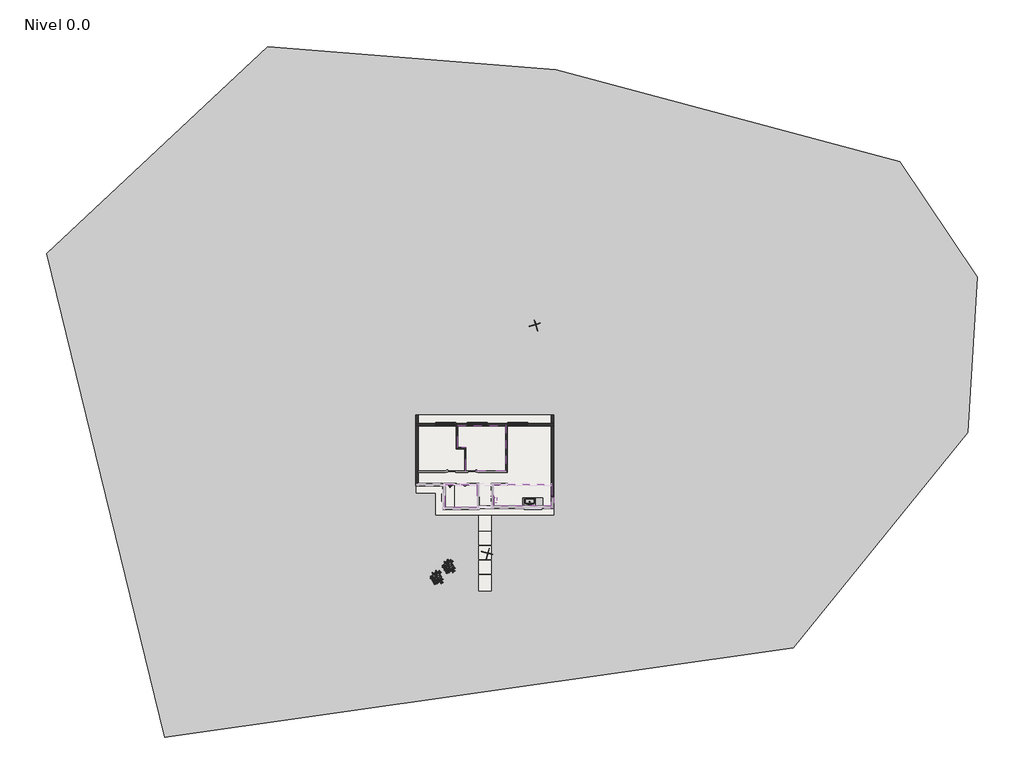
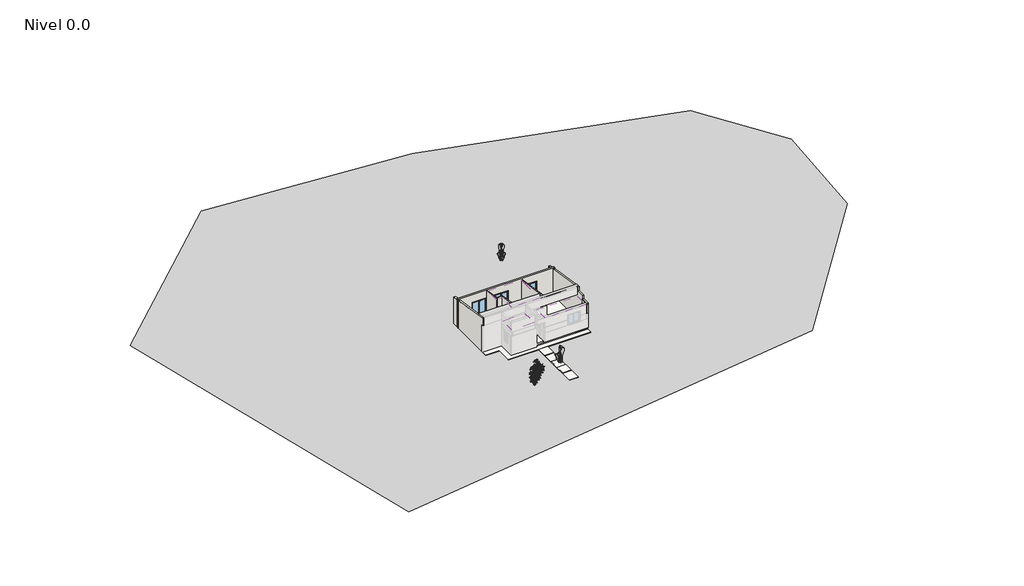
# One storey, part 2 of 2: 12 walls, 7 proxies, 6 slabs, 6 windows, 3 coverings, 2 flow terminals, 2 furniture elements, 2 geographic elements.
"""IFC4 building model written with IfcOpenShell, lengths in millimetres."""

from ifc_helpers import new_model, si_unit, frame, origin, origin_with_axes, place, context, project, spatial, polyline, outline, extrude, faceted_brep, triangles, transform, mapped, element, save
from components import people_01_multiple_views_persona_01_vistas_multiples_3530_4a2755cf, flow_terminal_b83d6339, m_sink_kitchen_single_760_x_535mm_74321b3d, furniture_f16aef51, m_counter_top_w_sink_d17fd10d, bamboo_enscape_assetdefinition_bamboo_5_6e08fe5f, window_a6007829, pv1_25aa4a58

model = new_model("IFC4")

# Units and contexts
model_context = context("Model", 3, world=origin())
ifc_project = project(units=[si_unit("LENGTHUNIT", "METRE", prefix="MILLI")], contexts=[model_context])

# Site, building, storey
site = spatial("IfcSite", under=ifc_project)
building = spatial("IfcBuilding", under=site)
storey = spatial("IfcBuildingStorey", under=building, Name="Nivel 0.0", Elevation=0.0)

# Proxies
placement = place(None, origin())
element("IfcBuildingElementProxy", 1, Name="Building Element Proxy", at=placement, inside=storey, context=model_context, shape_type="Tessellation", body=[
    triangles([(-19674.3339844, 29872.3603455, -250.0000019), (25881.25047, 21582.8779541, -250.0000019), (30779.1770874, 2036.0069744, -250.0000019), (-21424.1946167, -17154.7459167, -250.0000019), (1065.6719439, 28209.1665161, -250.0000019), (31467.8652832, 13232.2760376, -250.0000019), (18194.9312622, -13492.9566376, -250.0000019), (-27094.4717651, -19950.0590149, -250.0000019), (-35614.2610291, 14936.2336578, -250.0000019)], [[8, 4, 9], [4, 8, 7], [1, 9, 4], [4, 5, 1], [7, 3, 2], [7, 2, 5], [2, 3, 6], [7, 5, 4]], closed=False),
])
element("IfcBuildingElementProxy", 2, Name="Building Element Proxy", at=placement, inside=storey, context=model_context, shape_type="Tessellation", body=[
    triangles([(-8850.4684982, -1659.8934494, -100.0000008), (-3401.8967125, -1659.8934494, -100.0000008), (-3421.4077309, 2538.120076, -100.0000008), (-8850.4684982, 2538.120076, -100.0000008), (799.5316481, -1669.6655273, -100.0000008), (799.5316481, 2538.120076, -100.0000008)], [[4, 1, 3], [3, 1, 2], [2, 6, 3], [2, 5, 6], [5, 2, 1]], closed=False),
])
element("IfcBuildingElementProxy", 3, Name="Building Element Proxy", at=placement, inside=storey, context=model_context, shape_type="Tessellation", body=[
    triangles([(779.0860937, -3263.3801674, -100.0000008), (799.5316481, -1690.8667042, -100.0000008), (-3401.8967125, -1658.8933651, -100.0000008), (-3374.1844505, -3228.7064117, -100.0000008), (-4452.3965446, -3265.446611, -100.0000008), (-4432.6800156, -1666.787796, -100.0000008), (-4452.3965446, -1658.8933651, -100.0000008)], [[7, 5, 6], [6, 5, 4], [7, 6, 3], [4, 1, 2], [1, 4, 5], [2, 3, 4], [4, 3, 6]], closed=False),
])
element("IfcBuildingElementProxy", 4, Name="Building Element Proxy", at=placement, inside=storey, context=model_context, shape_type="Tessellation", body=[
    triangles([(-6902.3967087, -3362.879908, -100.0000008), (-6902.3967087, -1659.8934494, -100.0000008), (-4602.3966911, -1658.8933651, -100.0000008), (-4602.3966911, -3362.879908, -100.0000008)], [[2, 1, 4], [4, 3, 2]], closed=False),
])
people_01_multiple_views_persona_01_vistas_multiples_3530_shape = people_01_multiple_views_persona_01_vistas_multiples_3530_4a2755cf(model_context)
element("IfcBuildingElementProxy", 5, Name="People_01_Multiple_views_persona_01_Vistas_multiples_3530 : People_01_Multiple_views_persona_01_Vistas_multiples_3530", ObjectType="People_01_Multiple_views_persona_01_Vistas_multiples_3530 : People_01_Multiple_views_persona_01_Vistas_multiples_3530", at=placement, inside=storey, context=model_context, shape_type="MappedRepresentation", body=[
    mapped(people_01_multiple_views_persona_01_vistas_multiples_3530_shape, transform((-359.6740839, 9826.7475097, -240.1879487), x_axis=(0.9612616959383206, 0.27563735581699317, 0.0), y_axis=(-0.27563735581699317, 0.9612616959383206, 0.0), z_axis=(0.0, 0.0, 1.0))),
])
element("IfcBuildingElementProxy", 6, Name="People_01_Multiple_views_persona_01_Vistas_multiples_3530 : People_01_Multiple_views_persona_01_Vistas_multiples_3530", ObjectType="People_01_Multiple_views_persona_01_Vistas_multiples_3530 : People_01_Multiple_views_persona_01_Vistas_multiples_3530", at=placement, inside=storey, context=model_context, shape_type="MappedRepresentation", body=[
    mapped(people_01_multiple_views_persona_01_vistas_multiples_3530_shape, transform((-3810.0993088, -6666.0666058, -175.816385), x_axis=(0.9659258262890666, -0.25881904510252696, 0.0), y_axis=(0.25881904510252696, 0.9659258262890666, 0.0), z_axis=(0.0, 0.0, 1.0))),
])
element("IfcBuildingElementProxy", 7, Name="Slab Edge", ObjectType="Slab Edge", at=placement, inside=storey, context=model_context, shape_type="Brep", body=[
    faceted_brep([(-8953.085471, 2649.2146735, -175.816385), (-8953.085471, 2649.2146735, -475.816385), (-8953.085471, -1757.5487, -475.816385), (-8953.085471, -1757.5487, -175.816385), (-8353.085471, 2049.2146735, -175.816385), (-8353.085471, -1157.5487, -175.816385), (-8653.085471, 2349.2146735, -475.816385), (-8653.085471, -1457.5487, -475.816385), (894.914529, 2649.2146735, -175.816385), (894.914529, 2649.2146735, -475.816385), (294.914529, 2049.2146735, -175.816385), (594.914529, 2349.2146735, -475.816385), (894.914529, -3375.7853265, -175.816385), (894.914529, -3375.7853265, -475.816385), (294.914529, -2775.7853265, -175.816385), (594.914529, -3075.7853265, -475.816385), (-4481.0136856, -3375.7853265, -175.816385), (-4481.0136856, -3375.7853265, -475.816385), (-5081.0136856, -2775.7853265, -175.816385), (-4781.0136856, -3075.7853265, -475.816385), (-4481.0136856, -3480.7853265, -175.816385), (-4481.0136856, -3480.7853265, -475.816385), (-5081.0136856, -2880.7853265, -175.816385), (-4781.0136856, -3180.7853265, -475.816385), (-7016.0136856, -3480.7853265, -175.816385), (-7016.0136856, -3480.7853265, -475.816385), (-6416.0136856, -2880.7853265, -175.816385), (-6716.0136856, -3180.7853265, -475.816385), (-7016.0136856, -1757.5487, -175.816385), (-7016.0136856, -1757.5487, -475.816385), (-6416.0136856, -1157.5487, -175.816385), (-6716.0136856, -1457.5487, -475.816385)], [[[0, 1, 2, 3]], [[4, 0, 3, 5]], [[6, 4, 5, 7]], [[1, 6, 7, 2]], [[8, 9, 1, 0]], [[10, 8, 0, 4]], [[11, 10, 4, 6]], [[9, 11, 6, 1]], [[12, 13, 9, 8]], [[14, 12, 8, 10]], [[15, 14, 10, 11]], [[13, 15, 11, 9]], [[16, 17, 13, 12]], [[18, 16, 12, 14]], [[19, 18, 14, 15]], [[17, 19, 15, 13]], [[20, 21, 17, 16]], [[22, 20, 16, 18]], [[23, 22, 18, 19]], [[21, 23, 19, 17]], [[24, 25, 21, 20]], [[26, 24, 20, 22]], [[27, 26, 22, 23]], [[25, 27, 23, 21]], [[28, 29, 25, 24]], [[30, 28, 24, 26]], [[31, 30, 26, 27]], [[29, 31, 27, 25]], [[3, 2, 29, 28]], [[5, 3, 28, 30]], [[7, 5, 30, 31]], [[2, 7, 31, 29]]]),
])

# Coverings
element("IfcCovering", 8, ObjectType="1282-Aplicado de yeso", at=placement, inside=storey, context=model_context, shape_type="SweptSolid", body=[
    extrude(outline(polyline([(790.914529, -1700.2987), (790.914529, -3252.7853265), (-3392.5136856, -3252.7853265), (-3392.5136856, -1700.2987), (790.914529, -1700.2987)])), frame((0.0, 0.0, 2450.0), z_axis=(0.0, 0.0, 1.0), x_axis=(1.0, 0.0, 0.0)), (0.0, 0.0, 1.0), 20.0),
])
element("IfcCovering", 9, ObjectType="1282-Aplicado de yeso", at=placement, inside=storey, context=model_context, shape_type="SweptSolid", body=[
    extrude(outline(polyline([(-4599.311969, -3363.2853265), (-6894.0136856, -3363.2853265), (-6894.0136856, -1716.5487), (-4599.311969, -1716.5487), (-4599.311969, -3363.2853265)])), frame((0.0, 0.0, 2450.0), z_axis=(0.0, 0.0, 1.0), x_axis=(1.0, 0.0, 0.0)), (0.0, 0.0, 1.0), 20.0),
])
element("IfcCovering", 10, ObjectType="1282-Aplicado de yeso", at=placement, inside=storey, context=model_context, shape_type="Brep", body=[
    faceted_brep([(-5389.585595, 946.214389, 3058.7616933), (-5389.585595, -734.7221748, 3310.9021778), (-2513.4684884, -734.7221748, 3310.9021778), (-2513.4684884, 2541.2146735, 2819.5116506), (-5987.085595, 2541.2146735, 2819.5116506), (-5987.085595, 946.214389, 3058.7616933), (-5389.585595, 946.214389, 3038.5379448), (-5987.085595, 946.214389, 3038.5379448), (-5987.085595, 2541.2146735, 2799.2879022), (-2513.4684884, 2541.2146735, 2799.2879022), (-2513.4684884, -734.7221748, 3290.6784294), (-5389.585595, -734.7221748, 3290.6784294)], [[[0, 1, 2, 3, 4, 5]], [[6, 7, 8, 9, 10, 11]], [[1, 0, 6, 11]], [[2, 1, 11, 10]], [[3, 2, 10, 9]], [[4, 3, 9, 8]], [[5, 4, 8, 7]], [[0, 5, 7, 6]]]),
])

# Flow terminals
flow_terminal_shape = flow_terminal_b83d6339(model_context)
element("IfcFlowTerminal", 11, ObjectType="Cdo Ducha : Cdo Ducha", at=placement, inside=storey, context=model_context, shape_type="MappedRepresentation", body=[
    mapped(flow_terminal_shape, transform((-6536.0136856, -1741.5487, 0.0), x_axis=(-1.0, 0.0, 0.0), y_axis=(0.0, -1.0, 0.0), z_axis=(0.0, 0.0, 1.0))),
])
m_sink_kitchen_single_760_x_535mm_shape = m_sink_kitchen_single_760_x_535mm_74321b3d(model_context)
element("IfcFlowTerminal", 12, ObjectType="M_Sink Kitchen-Single : 760 x 535mm", at=placement, inside=storey, context=model_context, shape_type="MappedRepresentation", body=[
    mapped(m_sink_kitchen_single_760_x_535mm_shape, transform((-779.7782435, -2951.3399254, 0.0), x_axis=(-1.0, 0.0, 0.0), y_axis=(0.0, -1.0, 0.0), z_axis=(0.0, 0.0, 1.0))),
])

# Furniture
furniture_shape = furniture_f16aef51(model_context)
element("IfcFurniture", 13, ObjectType="CALEFON : EH-Esquentador a Gáz", at=placement, inside=storey, context=model_context, shape_type="MappedRepresentation", body=[
    mapped(furniture_shape, transform((-3370.5136856, -2852.9930723, 1200.0), x_axis=(0.0, -1.0, 0.0), y_axis=(1.0, 0.0, 0.0), z_axis=(0.0, 0.0, 1.0))),
])
m_counter_top_w_sink_shape = m_counter_top_w_sink_d17fd10d(model_context)
element("IfcFurniture", 14, ObjectType="M_Counter Top w Sink : Mesada 1.45m", at=placement, inside=storey, context=model_context, shape_type="MappedRepresentation", body=[
    mapped(m_counter_top_w_sink_shape, transform((-1042.4927432, -3264.2853265, 0.0), x_axis=(-1.0, 0.0, 0.0), y_axis=(0.0, -1.0, 0.0), z_axis=(0.0, 0.0, 1.0))),
])

# Geographic elements
bamboo_enscape_assetdefinition_bamboo_5_shape = bamboo_enscape_assetdefinition_bamboo_5_6e08fe5f(model_context)
element("IfcGeographicElement", 15, ObjectType="Bamboo : Enscape AssetDefinition - Bamboo 5", at=placement, inside=storey, context=model_context, shape_type="MappedRepresentation", body=[
    mapped(bamboo_enscape_assetdefinition_bamboo_5_shape, transform((-7476.0136856, -8440.7853265, -400.0), x_axis=(1.0, 0.0, 0.0), y_axis=(0.0, 1.0, 0.0), z_axis=(0.0, 0.0, 1.0))),
])
element("IfcGeographicElement", 16, ObjectType="Bamboo : Enscape AssetDefinition - Bamboo 5", at=placement, inside=storey, context=model_context, shape_type="MappedRepresentation", body=[
    mapped(bamboo_enscape_assetdefinition_bamboo_5_shape, transform((-6621.0136856, -7640.7853265, -400.0), x_axis=(1.0, 0.0, 0.0), y_axis=(0.0, 1.0, 0.0), z_axis=(0.0, 0.0, 1.0))),
])

# Slabs
element("IfcSlab", 17, ObjectType="Vereda de acceso", at=placement, inside=storey, context=model_context, shape_type="SweptSolid", body=[
    extrude(outline(polyline([(-3552.8965789, -3956.5789295), (-3552.8965789, -5038.2848008), (-4452.3965789, -5038.2848008), (-4452.3965789, -3956.5789295), (-3552.8965789, -3956.5789295)])), frame((0.0, 0.0, -295.816385), z_axis=(0.0, 0.0, 1.0), x_axis=(1.0, 0.0, 0.0)), (0.0, 0.0, 1.0), 120.0),
    extrude(outline(polyline([(-3552.8965789, -5080.8962998), (-3552.8965789, -6082.6021711), (-4452.3965789, -6082.6021711), (-4452.3965789, -5080.8962998), (-3552.8965789, -5080.8962998)])), frame((0.0, 0.0, -295.816385), z_axis=(0.0, 0.0, 1.0), x_axis=(1.0, 0.0, 0.0)), (0.0, 0.0, 1.0), 120.0),
    extrude(outline(polyline([(-3552.8965789, -6125.2136701), (-3552.8965789, -7126.9195414), (-4452.3965789, -7126.9195414), (-4452.3965789, -6125.2136701), (-3552.8965789, -6125.2136701)])), frame((0.0, 0.0, -295.816385), z_axis=(0.0, 0.0, 1.0), x_axis=(1.0, 0.0, 0.0)), (0.0, 0.0, 1.0), 120.0),
    extrude(outline(polyline([(-3552.8965789, -7169.5310404), (-3552.8965789, -8171.2369118), (-4452.3965789, -8171.2369118), (-4452.3965789, -7169.5310404), (-3552.8965789, -7169.5310404)])), frame((0.0, 0.0, -295.816385), z_axis=(0.0, 0.0, 1.0), x_axis=(1.0, 0.0, 0.0)), (0.0, 0.0, 1.0), 120.0),
    extrude(outline(polyline([(-3552.8965789, -8213.8484108), (-3552.8965789, -9375.5542821), (-4452.3965789, -9375.5542821), (-4452.3965789, -8213.8484108), (-3552.8965789, -8213.8484108)])), frame((0.0, 0.0, -295.816385), z_axis=(0.0, 0.0, 1.0), x_axis=(1.0, 0.0, 0.0)), (0.0, 0.0, 1.0), 120.0),
])
element("IfcSlab", 18, ObjectType="Platea de fundación", at=placement, inside=storey, context=model_context, shape_type="Brep", body=[
    faceted_brep([(-8953.085471, -1757.5487, -175.0), (-8953.085471, -1634.5487, -175.0), (-8953.085471, 2526.2146735, -175.0), (-8953.085471, 2649.2146735, -175.0), (894.914529, 2649.2146735, -175.0), (894.914529, 2526.2146735, -175.0), (894.914529, -3375.7853265, -175.0), (-4441.311969, -3375.7853265, -175.0), (-4481.0136856, -3375.7853265, -175.0), (-4481.0136856, -3480.7853265, -175.0), (-7016.0136856, -3480.7853265, -175.0), (-7016.0136856, -3364.7853265, -175.0), (-7016.0136856, -1757.5487, -175.0), (-7052.0136856, -1757.5487, -175.0), (-6196.1040625, -3363.5353265, -175.0), (-6196.1040625, -1741.5487, -175.0), (-6898.7636856, -1741.5487, -175.0), (-6898.7636856, -3363.5353265, -175.0), (-8953.085471, -1757.5487, -25.0), (-7052.0136856, -1757.5487, -25.0), (-7016.0136856, -1757.5487, -25.0), (-7016.0136856, -3364.7853265, -25.0), (-7016.0136856, -3480.7853265, -25.0), (-4481.0136856, -3480.7853265, -25.0), (-4481.0136856, -3375.7853265, -25.0), (-4441.311969, -3375.7853265, -25.0), (894.914529, -3375.7853265, -25.0), (894.914529, 2526.2146735, -25.0), (894.914529, 2649.2146735, -25.0), (-8953.085471, 2649.2146735, -25.0), (-8953.085471, 2526.2146735, -25.0), (-8953.085471, -1634.5487, -25.0), (-6196.1040625, -3363.5353265, -25.0), (-6898.7636856, -3363.5353265, -25.0), (-6898.7636856, -1741.5487, -25.0), (-6196.1040625, -1741.5487, -25.0)], [[[0, 1, 2, 3, 4, 5, 6, 7, 8, 9, 10, 11, 12, 13], [14, 15, 16, 17]], [[18, 19, 20, 21, 22, 23, 24, 25, 26, 27, 28, 29, 30, 31], [32, 33, 34, 35]], [[3, 2, 1, 0, 18, 31, 30, 29]], [[4, 3, 29, 28]], [[6, 5, 4, 28, 27, 26]], [[8, 7, 6, 26, 25, 24]], [[9, 8, 24, 23]], [[10, 9, 23, 22]], [[12, 11, 10, 22, 21, 20]], [[0, 13, 12, 20, 19, 18]], [[15, 14, 32, 35]], [[16, 15, 35, 34]], [[17, 16, 34, 33]], [[14, 17, 33, 32]]]),
])
element("IfcSlab", 19, ObjectType="Veredín perimetral", at=placement, inside=storey, context=model_context, shape_type="SweptSolid", body=[
    extrude(outline(polyline([(-7030.5136856, -1757.5487), (-7030.5136856, -3495.2853265), (-4466.5136856, -3495.2853265), (-4466.5136856, -3375.5487), (922.914529, -3375.5487), (922.914529, -3914.2853258), (-7558.5136856, -3914.2853258), (-7558.5136856, -2310.2987), (-8973.585471, -2310.2987), (-8973.585471, -1757.5487), (-7030.5136856, -1757.5487)])), frame((0.0, 0.0, -295.0), z_axis=(0.0, 0.0, 1.0), x_axis=(1.0, 0.0, 0.0)), (0.0, 0.0, 1.0), 120.0),
    extrude(outline(polyline([(922.914529, 3320.8520792), (922.914529, 2649.2146735), (-8973.585471, 2649.2146735), (-8973.585471, 3320.8520792), (922.914529, 3320.8520792)])), frame((0.0, 0.0, -295.0), z_axis=(0.0, 0.0, 1.0), x_axis=(1.0, 0.0, 0.0)), (0.0, 0.0, 1.0), 120.0),
])
element("IfcSlab", 20, ObjectType="Piso Cerámico", at=placement, inside=storey, context=model_context, shape_type="SweptSolid", body=[
    extrude(outline(polyline([(-3370.5136856, -3264.7853265), (-3370.5136856, -1634.0487), (-3560.5136856, -1634.0487), (-3560.5136856, -2519.4025284), (-3560.5136856, -3396.2853265), (-4459.5136856, -3396.2853265), (-4459.5136856, -2519.4025284), (-4505.0136856, -2519.4025284), (-4505.0136856, -1634.0487), (-5319.8471251, -1634.0487), (-5319.8471251, -1741.5487), (-4593.311969, -1741.5487), (-4593.311969, -3363.5353265), (-6196.1040625, -3363.5353265), (-6196.1040625, -1741.5487), (-6099.8471251, -1741.5487), (-6099.8471251, -1634.0487), (-8830.085471, -1634.0487), (-8830.085471, 2526.2146735), (761.414529, 2526.2146735), (761.414529, -3264.7853265), (-3370.5136856, -3264.7853265)])), frame((0.0, 0.0, -25.0), z_axis=(0.0, 0.0, 1.0), x_axis=(1.0, 0.0, 0.0)), (0.0, 0.0, 1.0), 25.0),
])
element("IfcSlab", 21, ObjectType="Platea de fundación, receptaculo baño", at=placement, inside=storey, context=model_context, shape_type="SweptSolid", body=[
    extrude(outline(polyline([(-6196.1040625, -3363.5353265), (-6898.7636856, -3363.5353265), (-6898.7636856, -1741.5487), (-6196.1040625, -1741.5487), (-6196.1040625, -3363.5353265)])), frame((0.0, 0.0, -175.816385), z_axis=(0.0, 0.0, 1.0), x_axis=(1.0, 0.0, 0.0)), (0.0, 0.0, 1.0), 100.0),
])
element("IfcSlab", 22, ObjectType="Piso Cerámico", at=placement, inside=storey, context=model_context, shape_type="SweptSolid", body=[
    extrude(outline(polyline([(-6196.1040625, -3363.5353265), (-6898.7636856, -3363.5353265), (-6898.7636856, -1741.5487), (-6196.1040625, -1741.5487), (-6196.1040625, -3363.5353265)])), frame((0.0, 0.0, -75.816385), z_axis=(0.0, 0.0, 1.0), x_axis=(1.0, 0.0, 0.0)), (0.0, 0.0, 1.0), 25.0),
])

# Walls
element("IfcWall", 23, ObjectType="Pe-SF-001", at=placement, inside=storey, context=model_context, shape_type="Brep", body=[
    faceted_brep([(-9008.335471, 3320.8520792, -175.816385), (-9008.335471, 2704.2146735, -175.816385), (-9008.335471, 2704.2146735, -175.0), (-9008.335471, 2704.2146735, 2800.6792259), (-9008.335471, 3320.8520792, 2708.183615), (-8830.335471, 3320.8520792, -175.816385), (-8830.335471, 3320.8520792, 2708.183615), (-8830.335471, 2704.2146735, 2800.6792259), (-8830.335471, 2704.2146735, -175.816385)], [[[0, 1, 2, 3, 4]], [[5, 6, 7, 8]], [[1, 0, 5, 8]], [[0, 4, 6, 5]], [[3, 2, 1, 8, 7]], [[4, 3, 7, 6]]]),
])
element("IfcWall", 24, ObjectType="Pe-SF-002", at=placement, inside=storey, context=model_context, shape_type="Brep", body=[
    faceted_brep([(939.414529, 2704.2146735, -175.0), (-9008.335471, 2704.2146735, -175.0), (-9008.335471, 2704.2146735, 2800.6792259), (-9008.335471, 2704.2146735, 2925.0), (939.414529, 2704.2146735, 2925.0), (939.414529, 2704.2146735, 2779.6374097), (-6149.6368868, 2704.2146735, 2129.183615), (-7589.6368868, 2704.2146735, 2129.183615), (-7589.6368868, 2704.2146735, -0.816385), (-6149.6368868, 2704.2146735, -0.816385), (-3874.085471, 2704.2146735, -0.816385), (-3874.085471, 2704.2146735, 2129.183615), (-5314.085471, 2704.2146735, 2129.183615), (-5314.085471, 2704.2146735, -0.816385), (-932.085595, 2704.2146735, -0.816385), (-932.085595, 2704.2146735, 2129.183615), (-2372.085595, 2704.2146735, 2129.183615), (-2372.085595, 2704.2146735, -0.816385), (939.414529, 2526.2146735, 2925.0), (-9008.335471, 2526.2146735, 2925.0), (-9008.335471, 2526.2146735, -175.0), (-9008.085471, 2526.2146735, -175.0), (-8953.085471, 2526.2146735, -175.0), (-8953.085471, 2526.2146735, -25.0), (-8830.085471, 2526.2146735, -25.0), (761.414529, 2526.2146735, -25.0), (894.914529, 2526.2146735, -25.0), (894.914529, 2526.2146735, -175.0), (939.414529, 2526.2146735, -175.0), (939.414529, 2526.2146735, -25.0), (939.414529, 2526.2146735, 2827.3792259), (-7589.6368868, 2526.2146735, 2129.183615), (-6149.6368868, 2526.2146735, 2129.183615), (-6149.6368868, 2526.2146735, -0.816385), (-7589.6368868, 2526.2146735, -0.816385), (-3874.085471, 2526.2146735, 2129.183615), (-3874.085471, 2526.2146735, -0.816385), (-5314.085471, 2526.2146735, -0.816385), (-5314.085471, 2526.2146735, 2129.183615), (-932.085595, 2526.2146735, 2129.183615), (-932.085595, 2526.2146735, -0.816385), (-2372.085595, 2526.2146735, -0.816385), (-2372.085595, 2526.2146735, 2129.183615), (894.914529, 2649.2146735, -175.0), (-8953.085471, 2649.2146735, -175.0), (-8953.085471, 2649.2146735, -25.0), (894.914529, 2649.2146735, -25.0)], [[[0, 1, 2, 3, 4, 5], [6, 7, 8, 9], [10, 11, 12, 13], [14, 15, 16, 17]], [[18, 19, 20, 21, 22, 23, 24, 25, 26, 27, 28, 29, 30], [31, 32, 33, 34], [35, 36, 37, 38], [39, 40, 41, 42]], [[1, 0, 28, 27, 43, 44, 22, 21, 20]], [[4, 3, 19, 18]], [[8, 34, 33, 9]], [[36, 10, 13, 37]], [[40, 14, 17, 41]], [[9, 33, 32, 6]], [[31, 7, 6, 32]], [[7, 31, 34, 8]], [[10, 36, 35, 11]], [[11, 35, 38, 12]], [[12, 38, 37, 13]], [[14, 40, 39, 15]], [[15, 39, 42, 16]], [[16, 42, 41, 17]], [[1, 20, 19, 3, 2]], [[45, 46, 26, 25, 24, 23]], [[46, 45, 44, 43]], [[46, 43, 27, 26]], [[44, 45, 23, 22]], [[4, 18, 30, 29, 28, 0, 5]]]),
])
element("IfcWall", 25, ObjectType="Pi-SF-050", at=placement, inside=storey, context=model_context, shape_type="Brep", body=[
    faceted_brep([(-6082.085595, 2526.2146735, 0.0), (-6082.085595, 851.214389, 0.0), (-6082.085595, 851.214389, 3078.6292686), (-6082.085595, 2526.2146735, 2827.3792259), (-5987.085595, 2526.2146735, 0.0), (-5987.085595, 2526.2146735, 2827.3792259), (-5987.085595, 946.214389, 3064.3792686), (-5987.085595, 851.214389, 3078.6292686), (-5987.085595, 851.214389, 0.0), (-5987.085595, 946.214389, 0.0)], [[[0, 1, 2, 3]], [[4, 5, 6, 7, 8, 9]], [[1, 0, 4, 9, 8]], [[3, 2, 7, 6, 5]], [[2, 1, 8, 7]], [[0, 3, 5, 4]]]),
])
element("IfcWall", 26, ObjectType="Pi-SF-050", at=placement, inside=storey, context=model_context, shape_type="Brep", body=[
    faceted_brep([(-5987.085595, 851.214389, 0.0), (-5484.585595, 851.214389, 0.0), (-5389.585595, 851.214389, 0.0), (-5389.585595, 851.214389, 3078.6292686), (-5484.585595, 851.214389, 3078.6292686), (-5987.085595, 851.214389, 3078.6292686), (-5987.085595, 946.214389, 0.0), (-5987.085595, 946.214389, 3064.3792686), (-5389.585595, 946.214389, 3064.3792686), (-5389.585595, 946.214389, 0.0)], [[[0, 1, 2, 3, 4, 5]], [[6, 7, 8, 9]], [[2, 1, 0, 6, 9]], [[5, 4, 3, 8, 7]], [[3, 2, 9, 8]], [[0, 5, 7, 6]]]),
])
element("IfcWall", 27, ObjectType="Pi-SF-050", at=placement, inside=storey, context=model_context, shape_type="SweptSolid", body=[
    extrude(outline(polyline([(851.214389, 0.0), (-734.7221748, 0.0), (-734.7221748, 3316.5197531), (851.214389, 3078.6292686), (851.214389, 0.0)])), frame((-5484.585595, 0.0, 0.0), z_axis=(1.0, 0.0, 0.0), x_axis=(0.0, 1.0, 0.0)), (0.0, 0.0, 1.0), 95.0),
])
element("IfcWall", 28, ObjectType="Pi-SF-050", at=placement, inside=storey, context=model_context, shape_type="Brep", body=[
    faceted_brep([(-2418.4684884, 2526.2146735, 0.0), (-2418.4684884, 2526.2146735, 2827.3792259), (-2418.4684884, -1634.0487, 3451.4187319), (-2418.4684884, -1634.0487, 0.0), (-2418.4684884, -1632.1000845, 0.0), (-2418.4684884, -1632.1000845, 2100.0), (-2418.4684884, -832.1000845, 2100.0), (-2418.4684884, -832.1000845, 0.0), (-2513.4684884, 2526.2146735, 2827.3792259), (-2513.4684884, 2526.2146735, 0.0), (-2513.4684884, -734.7221748, 0.0), (-2513.4684884, -734.7221748, 3316.5197531), (-2513.4684884, -1632.1000845, 0.0), (-2513.4684884, -1634.0487, 0.0), (-2513.4684884, -1634.0487, 3451.4187319), (-2513.4684884, -829.7221748, 3330.7697531), (-2513.4684884, -829.7221748, 0.0), (-2513.4684884, -832.1000845, 0.0), (-2513.4684884, -832.1000845, 2100.0), (-2513.4684884, -1632.1000845, 2100.0), (-2465.9684884, -829.7221748, 0.0), (-2465.9684884, -734.7221748, 0.0), (-2465.9684884, -829.7221748, 3330.7697531), (-2465.9684884, -734.7221748, 3316.5197531)], [[[0, 1, 2, 3, 4, 5, 6, 7]], [[8, 9, 10, 11]], [[12, 13, 14, 15, 16, 17, 18, 19]], [[1, 0, 9, 8]], [[9, 0, 7, 17, 16, 20, 21, 10]], [[4, 3, 13, 12]], [[5, 19, 18, 6]], [[19, 5, 4, 12]], [[6, 18, 17, 7]], [[13, 3, 2, 14]], [[22, 20, 16, 15]], [[21, 23, 11, 10]], [[20, 22, 23, 21]], [[2, 1, 8, 11, 23, 22, 15, 14]]]),
])
element("IfcWall", 29, ObjectType="Pe-SF-002", at=placement, inside=storey, context=model_context, shape_type="Brep", body=[
    faceted_brep([(939.414529, -2651.7853265, 3075.0), (939.414529, -2651.7853265, 2700.0), (939.414529, -2651.7853265, 2600.0), (939.414529, -2651.7853265, 1600.0), (939.414529, -2651.7853265, 1000.0), (939.414529, -2651.7853265, 0.0), (939.414529, -2651.7853265, -25.0), (939.414529, 2526.2146735, -25.0), (939.414529, 2526.2146735, 2827.3792259), (939.414529, -1812.5487, 3478.1937319), (939.414529, -1812.5487, 3075.0), (761.414529, -2651.7853265, -25.0), (761.414529, -2651.7853265, 0.0), (761.414529, -2651.7853265, 1000.0), (761.414529, -2651.7853265, 1600.0), (761.414529, -2651.7853265, 2600.0), (761.414529, -2651.7853265, 3075.0), (761.414529, -1812.5487, 3075.0), (761.414529, -1812.5487, 3478.1937319), (761.414529, -1812.0487, 3478.1187319), (761.414529, -1634.0487, 3451.4187319), (761.414529, 2526.2146735, 2827.3792259), (761.414529, 2526.2146735, -25.0), (894.914529, 2526.2146735, -25.0)], [[[0, 1, 2, 3, 4, 5, 6, 7, 8, 9, 10]], [[11, 12, 13, 14, 15, 16, 17, 18, 19, 20, 21, 22]], [[7, 6, 11, 22, 23]], [[0, 16, 15, 14, 13, 12, 11, 6, 5, 4, 3, 2, 1]], [[7, 23, 22, 21, 8]], [[0, 10, 17, 16]], [[17, 10, 9, 18]], [[9, 8, 21, 20, 19, 18]]]),
])
element("IfcWall", 30, ObjectType="Pe-SF-002", at=placement, inside=storey, context=model_context, shape_type="Brep", body=[
    faceted_brep([(939.414529, -3430.5487, 1600.0), (939.414529, -2651.7853265, 1600.0), (939.414529, -2651.7853265, 2600.0), (939.414529, -3430.5487, 2600.0), (761.414529, -3430.5487, 1600.0), (761.414529, -3430.5487, 2600.0), (761.414529, -3252.5487, 2600.0), (761.414529, -2651.7853265, 2600.0), (761.414529, -2651.7853265, 1600.0), (761.414529, -3252.5487, 1600.0)], [[[0, 1, 2, 3]], [[4, 5, 6, 7, 8, 9]], [[1, 0, 4, 9, 8]], [[2, 1, 8, 7]], [[3, 2, 7, 6, 5]], [[0, 3, 5, 4]]]),
])
element("IfcWall", 31, ObjectType="Pe-SF-001", at=placement, inside=storey, context=model_context, shape_type="Brep", body=[
    faceted_brep([(939.414529, -3430.5487, 2600.0), (939.414529, -2651.7853265, 2600.0), (939.414529, -2651.7853265, 2700.0), (939.414529, -3430.5487, 2700.0), (761.414529, -3430.5487, 2600.0), (761.414529, -3430.5487, 2700.0), (761.414529, -2651.7853265, 2700.0), (761.414529, -2651.7853265, 2600.0), (761.414529, -3252.5487, 2600.0)], [[[0, 1, 2, 3]], [[4, 5, 6, 7, 8]], [[1, 0, 4, 8, 7]], [[2, 1, 7, 6]], [[3, 2, 6, 5]], [[0, 3, 5, 4]]]),
])
element("IfcWall", 32, ObjectType="Pe-SF-001", at=placement, inside=storey, context=model_context, shape_type="Brep", body=[
    faceted_brep([(939.414529, 3320.8520792, 2698.36723), (939.414529, 2704.2146735, 2779.6374097), (939.414529, 2704.2146735, -175.0), (939.414529, 2704.2146735, -175.816385), (939.414529, 3320.8520792, -175.816385), (761.414529, 3320.8520792, 2698.36723), (761.414529, 3320.8520792, -175.816385), (761.414529, 2704.2146735, -175.816385), (761.414529, 2704.2146735, 2779.6374097)], [[[0, 1, 2, 3, 4]], [[5, 6, 7, 8]], [[1, 0, 5, 8]], [[4, 3, 7, 6]], [[0, 4, 6, 5]], [[3, 2, 1, 8, 7]]]),
])
element("IfcWall", 33, ObjectType="Pe-SF-002", at=placement, inside=storey, context=model_context, shape_type="Brep", body=[
    faceted_brep([(-9008.085471, 2526.2146735, -175.0), (-9008.085471, -1634.5487, -175.0), (-9008.085471, -1634.5487, 2700.0), (-9008.085471, -1812.0487, 2700.0), (-9008.085471, -1812.0487, 3478.1187319), (-9008.085471, 2526.2146735, 2827.3792259), (-8830.085471, 2526.2146735, 2827.3792259), (-8830.085471, -734.7221748, 3316.5197531), (-8830.085471, -829.7221748, 3330.7697531), (-8830.085471, -1812.0487, 3478.1187319), (-8830.085471, -1812.0487, 2700.0), (-8830.085471, -1634.5487, 2700.0), (-8830.085471, -1634.5487, -25.0), (-8830.085471, 2526.2146735, -25.0), (-8953.085471, 2526.2146735, -175.0), (-8953.085471, -1634.5487, -175.0), (-8953.085471, -1634.5487, -25.0), (-8953.085471, 2526.2146735, -25.0)], [[[0, 1, 2, 3, 4, 5]], [[6, 7, 8, 9, 10, 11, 12, 13]], [[5, 4, 9, 8, 7, 6]], [[1, 0, 14, 15]], [[16, 17, 13, 12]], [[17, 16, 15, 14]], [[3, 2, 11, 10]], [[2, 1, 15, 16, 12, 11]], [[9, 4, 3, 10]], [[0, 5, 6, 13, 17, 14]]]),
])
element("IfcWall", 34, ObjectType="Pe-SF-002", at=placement, inside=storey, context=model_context, shape_type="SweptSolid", body=[
    extrude(outline(polyline([(939.414529, -2651.7853265), (939.414529, -3252.5487), (761.414529, -3252.5487), (761.414529, -2651.7853265), (939.414529, -2651.7853265)])), origin_with_axes(), (0.0, 0.0, 1.0), 1000.0),
])

# Windows
window_shape = window_a6007829(model_context)
element("IfcWindow", 35, ObjectType="Premarco metálico : Premarco metálico PV1", at=placement, inside=storey, context=model_context, shape_type="MappedRepresentation", body=[
    mapped(window_shape, transform((-6939.6368868, 2615.2146735, -800.816385), x_axis=(-1.0, 0.0, 0.0), y_axis=(0.0, -1.0, 0.0), z_axis=(0.0, 0.0, 1.0))),
])
element("IfcWindow", 36, ObjectType="Premarco metálico : Premarco metálico PV1", at=placement, inside=storey, context=model_context, shape_type="MappedRepresentation", body=[
    mapped(window_shape, transform((-4664.085471, 2615.2146735, -800.816385), x_axis=(-1.0, 0.0, 0.0), y_axis=(0.0, -1.0, 0.0), z_axis=(0.0, 0.0, 1.0))),
])
element("IfcWindow", 37, ObjectType="Premarco metálico : Premarco metálico PV1", at=placement, inside=storey, context=model_context, shape_type="MappedRepresentation", body=[
    mapped(window_shape, transform((-1722.085595, 2615.2146735, -800.816385), x_axis=(-1.0, 0.0, 0.0), y_axis=(0.0, -1.0, 0.0), z_axis=(0.0, 0.0, 1.0))),
])
pv1_shape = pv1_25aa4a58(model_context)
element("IfcWindow", 38, ObjectType="Vtana Corrediza : PV1", at=placement, inside=storey, context=model_context, shape_type="MappedRepresentation", body=[
    mapped(pv1_shape, transform((-6864.6368868, 2615.2146735, -800.816385), x_axis=(-1.0, 0.0, 0.0), y_axis=(0.0, -1.0, 0.0), z_axis=(0.0, 0.0, 1.0))),
])
element("IfcWindow", 39, ObjectType="Vtana Corrediza : PV1", at=placement, inside=storey, context=model_context, shape_type="MappedRepresentation", body=[
    mapped(pv1_shape, transform((-4589.085471, 2615.2146735, -800.816385), x_axis=(-1.0, 0.0, 0.0), y_axis=(0.0, -1.0, 0.0), z_axis=(0.0, 0.0, 1.0))),
])
element("IfcWindow", 40, ObjectType="Vtana Corrediza : PV1", at=placement, inside=storey, context=model_context, shape_type="MappedRepresentation", body=[
    mapped(pv1_shape, transform((-1647.085595, 2615.2146735, -800.816385), x_axis=(-1.0, 0.0, 0.0), y_axis=(0.0, -1.0, 0.0), z_axis=(0.0, 0.0, 1.0))),
])

save(model, "model.ifc")
